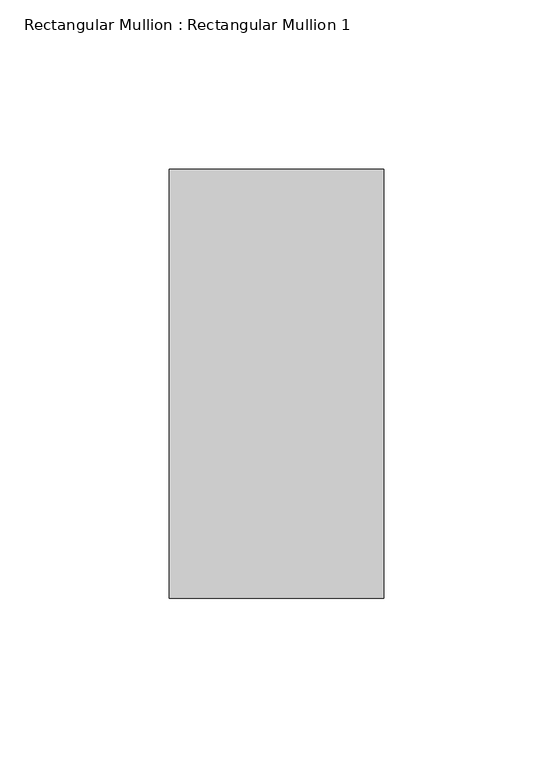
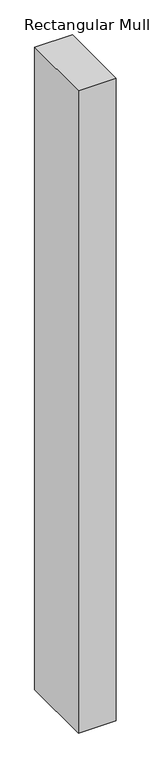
"""IFC4 building model written with IfcOpenShell, lengths in millimetres: member geometry, Rectangular Mullion : Rectangular Mullion 1."""

from ifc_helpers import new_model, si_unit, frame, origin, place, context, project, spatial, polyline, outline, extrude, source, transform, mapped, element, save


def rectangular_mullion_rectangular_mullion_1_b8b32124(model_context):
    return source(origin(), model_context, "Body", "SweptSolid", [
        extrude(outline(polyline([(0.0, 63.5), (0.0, -63.5), (-63.5, -63.5), (-63.5, 63.5), (0.0, 63.5)])), frame((0.0, 0.0, -1141.5971191), z_axis=(0.0, 0.0, 1.0), x_axis=(1.0, 0.0, 0.0)), (0.0, 0.0, 1.0), 1141.5971191),
    ])


if __name__ == "__main__":
    model = new_model("IFC4")
    model_context = context("Model", 3, world=origin())
    ifc_project = project(units=[si_unit("LENGTHUNIT", "METRE", prefix="MILLI")], contexts=[model_context])
    site = spatial("IfcSite", under=ifc_project)
    building = spatial("IfcBuilding", under=site)
    placement = place(None, origin())
    rectangular_mullion_rectangular_mullion_1_shape = rectangular_mullion_rectangular_mullion_1_b8b32124(model_context)
    element("IfcMember", 1, ObjectType="Rectangular Mullion : Rectangular Mullion 1", at=placement, inside=building, context=model_context, shape_type="MappedRepresentation", body=[
        mapped(rectangular_mullion_rectangular_mullion_1_shape, transform((0.0, 0.0, 0.0), x_axis=(1.0, 0.0, 0.0), y_axis=(0.0, 1.0, 0.0), z_axis=(0.0, 0.0, 1.0))),
    ])
    save(model, "model.ifc")
